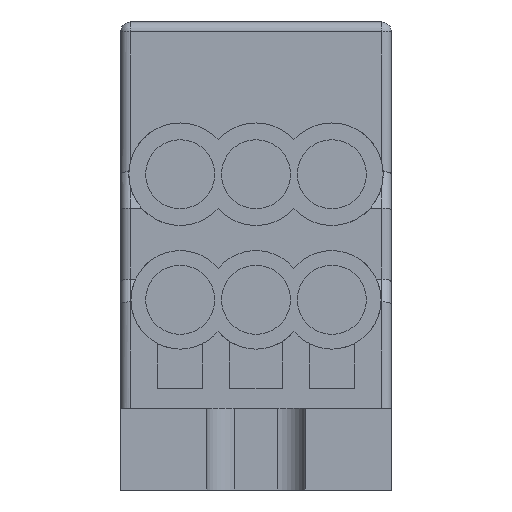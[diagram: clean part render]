
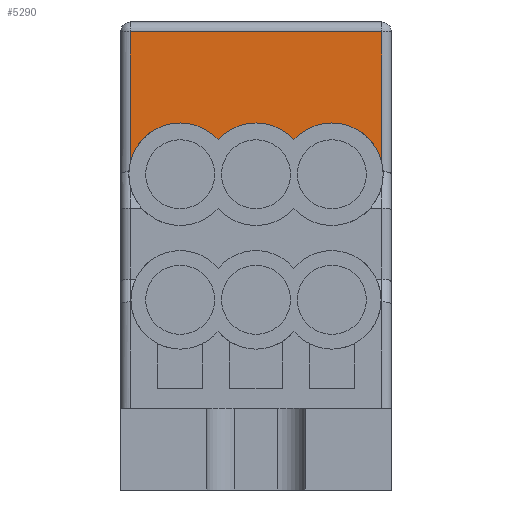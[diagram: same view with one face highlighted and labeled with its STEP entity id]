
A CAD part, front view. The second image highlights one B-rep face of the part: STEP entity #5290.
In plain terms, the highlighted planar face has unit normal (0, -1, 0).
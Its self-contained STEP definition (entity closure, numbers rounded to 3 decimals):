
#42 = ORIENTED_EDGE ( 'NONE', *, *, #2672, .T. ) ;
#434 = ORIENTED_EDGE ( 'NONE', *, *, #5460, .T. ) ;
#593 = CARTESIAN_POINT ( 'NONE',  ( 26.5, -26.4, 26.92 ) ) ;
#649 = VECTOR ( 'NONE', #3354, 1000. ) ;
#676 = CARTESIAN_POINT ( 'NONE',  ( 27.5, -26.4, 40.1 ) ) ;
#694 = CARTESIAN_POINT ( 'NONE',  ( 26.5, -26.4, 40.1 ) ) ;
#931 = FACE_OUTER_BOUND ( 'NONE', #6259, .T. ) ;
#1052 = LINE ( 'NONE', #676, #6078 ) ;
#1234 = VERTEX_POINT ( 'NONE', #4931 ) ;
#1360 = DIRECTION ( 'NONE',  ( 0., 1., 0. ) ) ;
#1410 = CARTESIAN_POINT ( 'NONE',  ( 1., -26.4, 26.92 ) ) ;
#1439 = VERTEX_POINT ( 'NONE', #593 ) ;
#1497 = EDGE_CURVE ( 'NONE', #6117, #1234, #4864, .T. ) ;
#1530 = EDGE_CURVE ( 'NONE', #1234, #4470, #5838, .T. ) ;
#1607 = CARTESIAN_POINT ( 'NONE',  ( 17.6, -26.4, 29.156 ) ) ;
#1682 = EDGE_CURVE ( 'NONE', #3029, #5902, #1052, .T. ) ;
#1901 = CARTESIAN_POINT ( 'NONE',  ( 27.5, -26.4, 41.1 ) ) ;
#2159 = DIRECTION ( 'NONE',  ( 0., 1., 0. ) ) ;
#2405 = EDGE_CURVE ( 'NONE', #5668, #1439, #4150, .T. ) ;
#2630 = DIRECTION ( 'NONE',  ( 0., 0., 1. ) ) ;
#2653 = DIRECTION ( 'NONE',  ( 0., 1., 0. ) ) ;
#2663 = CARTESIAN_POINT ( 'NONE',  ( 21.45, -26.4, 25.65 ) ) ;
#2672 = EDGE_CURVE ( 'NONE', #1439, #3029, #4548, .T. ) ;
#2736 = VERTEX_POINT ( 'NONE', #1410 ) ;
#2789 = CIRCLE ( 'NONE', #4971, 5.207 ) ;
#2893 = DIRECTION ( 'NONE',  ( 0., 1., 0. ) ) ;
#3029 = VERTEX_POINT ( 'NONE', #694 ) ;
#3060 = DIRECTION ( 'NONE',  ( 0., 1., 0. ) ) ;
#3088 = DIRECTION ( 'NONE',  ( 0., 0., 1. ) ) ;
#3112 = ORIENTED_EDGE ( 'NONE', *, *, #4979, .T. ) ;
#3235 = EDGE_CURVE ( 'NONE', #2736, #6117, #5361, .T. ) ;
#3354 = DIRECTION ( 'NONE',  ( 0., 0., 1. ) ) ;
#3409 = AXIS2_PLACEMENT_3D ( 'NONE', #2663, #2653, #2630 ) ;
#3690 = CARTESIAN_POINT ( 'NONE',  ( 21.45, -26.4, 30.857 ) ) ;
#4150 = CIRCLE ( 'NONE', #3409, 5.207 ) ;
#4282 = CARTESIAN_POINT ( 'NONE',  ( 6.05, -26.4, 25.65 ) ) ;
#4470 = VERTEX_POINT ( 'NONE', #1607 ) ;
#4526 = AXIS2_PLACEMENT_3D ( 'NONE', #4879, #5024, #5358 ) ;
#4548 = LINE ( 'NONE', #6239, #649 ) ;
#4663 = VECTOR ( 'NONE', #5469, 1000. ) ;
#4774 = DIRECTION ( 'NONE',  ( 0., 0., 1. ) ) ;
#4779 = CARTESIAN_POINT ( 'NONE',  ( 13.75, -26.4, 25.65 ) ) ;
#4826 = ORIENTED_EDGE ( 'NONE', *, *, #1530, .T. ) ;
#4864 = CIRCLE ( 'NONE', #4526, 5.207 ) ;
#4867 = CARTESIAN_POINT ( 'NONE',  ( 1., -26.4, 40.1 ) ) ;
#4879 = CARTESIAN_POINT ( 'NONE',  ( 6.05, -26.4, 25.65 ) ) ;
#4931 = CARTESIAN_POINT ( 'NONE',  ( 9.9, -26.4, 29.156 ) ) ;
#4971 = AXIS2_PLACEMENT_3D ( 'NONE', #5071, #2159, #5551 ) ;
#4979 = EDGE_CURVE ( 'NONE', #4470, #5668, #2789, .T. ) ;
#4981 = CARTESIAN_POINT ( 'NONE',  ( 1., -26.4, 41.1 ) ) ;
#5024 = DIRECTION ( 'NONE',  ( 0., 1., 0. ) ) ;
#5041 = DIRECTION ( 'NONE',  ( -1., 0., 0. ) ) ;
#5071 = CARTESIAN_POINT ( 'NONE',  ( 21.45, -26.4, 25.65 ) ) ;
#5170 = CARTESIAN_POINT ( 'NONE',  ( 6.05, -26.4, 30.857 ) ) ;
#5176 = AXIS2_PLACEMENT_3D ( 'NONE', #1901, #2893, #6273 ) ;
#5290 = ADVANCED_FACE ( 'NONE', ( #931 ), #5770, .F. ) ;
#5358 = DIRECTION ( 'NONE',  ( 0., 0., 1. ) ) ;
#5361 = CIRCLE ( 'NONE', #5417, 5.207 ) ;
#5366 = ORIENTED_EDGE ( 'NONE', *, *, #2405, .T. ) ;
#5417 = AXIS2_PLACEMENT_3D ( 'NONE', #4282, #1360, #4774 ) ;
#5460 = EDGE_CURVE ( 'NONE', #5902, #2736, #5941, .T. ) ;
#5469 = DIRECTION ( 'NONE',  ( 0., 0., -1. ) ) ;
#5551 = DIRECTION ( 'NONE',  ( 0., 0., 1. ) ) ;
#5668 = VERTEX_POINT ( 'NONE', #3690 ) ;
#5770 = PLANE ( 'NONE',  #5176 ) ;
#5838 = CIRCLE ( 'NONE', #6162, 5.207 ) ;
#5902 = VERTEX_POINT ( 'NONE', #4867 ) ;
#5903 = ORIENTED_EDGE ( 'NONE', *, *, #3235, .T. ) ;
#5941 = LINE ( 'NONE', #4981, #4663 ) ;
#5956 = ORIENTED_EDGE ( 'NONE', *, *, #1497, .T. ) ;
#6078 = VECTOR ( 'NONE', #5041, 1000. ) ;
#6117 = VERTEX_POINT ( 'NONE', #5170 ) ;
#6162 = AXIS2_PLACEMENT_3D ( 'NONE', #4779, #3060, #3088 ) ;
#6239 = CARTESIAN_POINT ( 'NONE',  ( 26.5, -26.4, 40.1 ) ) ;
#6259 = EDGE_LOOP ( 'NONE', ( #3112, #5366, #42, #6281, #434, #5903, #5956, #4826 ) ) ;
#6273 = DIRECTION ( 'NONE',  ( 0., 0., 1. ) ) ;
#6281 = ORIENTED_EDGE ( 'NONE', *, *, #1682, .T. ) ;
